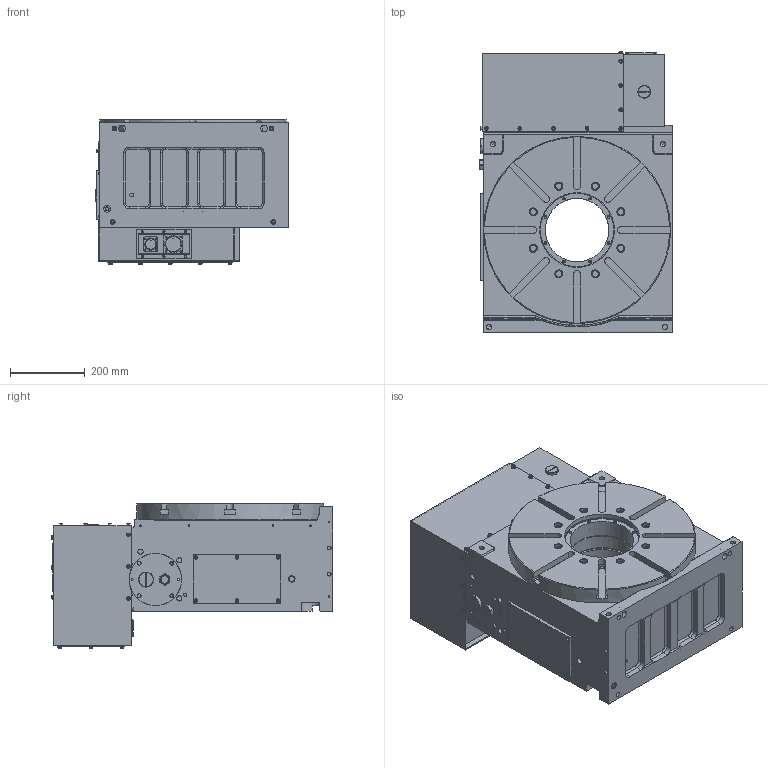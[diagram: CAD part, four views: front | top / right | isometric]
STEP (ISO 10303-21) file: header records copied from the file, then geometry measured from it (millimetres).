
FILE_DESCRIPTION (( 'STEP AP203' ), '1' );
FILE_NAME ('1519885-MDU503R-06.STEP', '2021-06-25T02:54:39', ( '' ), ( '' ), 'SwSTEP 2.0', 'SolidWorks 2021', '' );
FILE_SCHEMA (( 'CONFIG_CONTROL_DESIGN' ));
Length unit declared in the file: millimetre
Products named in the file (1): 1519885-MDU503R-06
Bounding box: 515.5 x 754.3 x 390.1 mm (x, y, z)
Surface area: 2155125.5 mm2 (no closed solid volume)
Topology: 0 solids, 75 shells, 770 faces, 2408 edges, 1720 vertices
Faces by surface type: plane 394, cylinder 287, cone 70, torus 19
Full cylindrical faces by diameter (mm): 3.2 x3, 3.7 x2, 4.2 x19, 4.3 x1, 5 x5, 6 x6, 6.5 x7, 6.8 x19, 8 x1, 8.72 x26, 8.8 x1, 9.5 x10, 10 x26, 10.2 x2, 10.5 x3, 11 x10, 13 x4, 14 x11, 14.275 x1, 17 x20, 18 x3, 20 x14, 23 x2, 26 x2, 27.7 x1, 30 x1, 31.75 x1, 34 x1, 40 x1, 40.7 x1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
Entity records: 25764 total; most frequent: CARTESIAN_POINT 4919, DIRECTION 4490, ORIENTED_EDGE 3238, EDGE_CURVE 2075, AXIS2_PLACEMENT_3D 1698, VERTEX_POINT 1665, EDGE_LOOP 1411, LINE 1094
